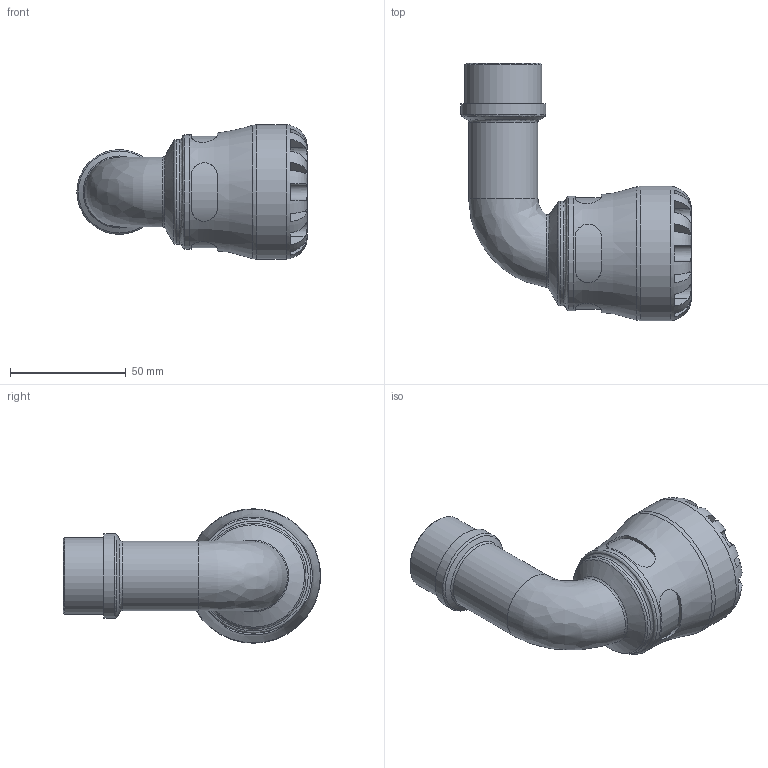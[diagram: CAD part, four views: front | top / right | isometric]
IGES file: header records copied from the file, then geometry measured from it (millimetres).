
Global section: file name: 107700032010_197700032010.ipt; native system: Autodesk Inventor 2015; preprocessor: unknown; author: KIM; date: 20170122.115454; units: millimetre
Bounding box: 99.29 x 111 x 58 mm (x, y, z)
Volume: 112793.6 mm3; surface area: 36416.2 mm2
Topology: 1 solids, 1 shells, 112 faces, 288 edges, 183 vertices
Faces by surface type: plane 60, revolution 28, cylinder 18, bspline 4, cone 2
Full cylindrical faces by diameter (mm): 29.924 x1, 33.249 x1, 36.574 x1, 45.24 x1, 49.3 x1, 58 x1
